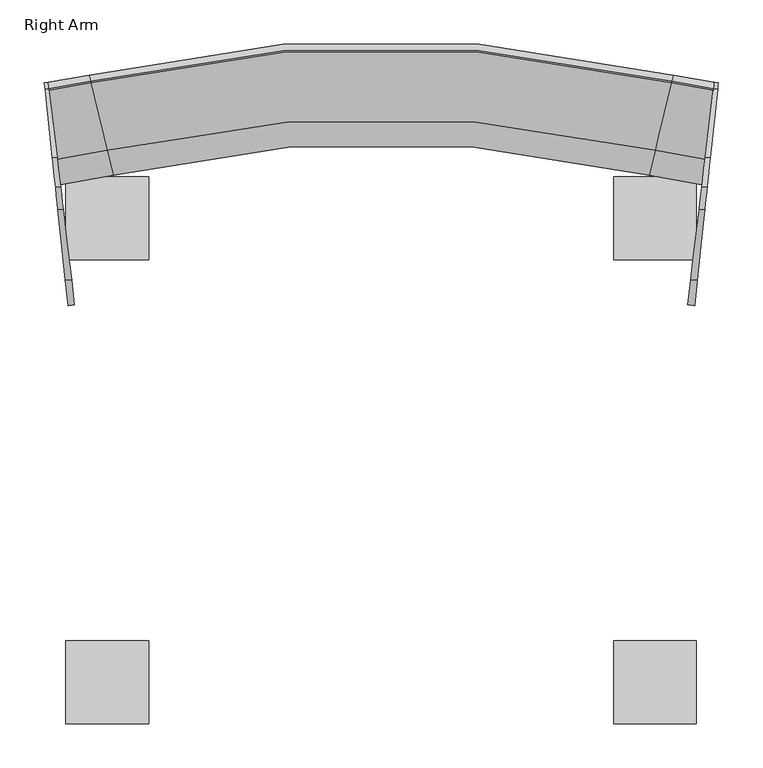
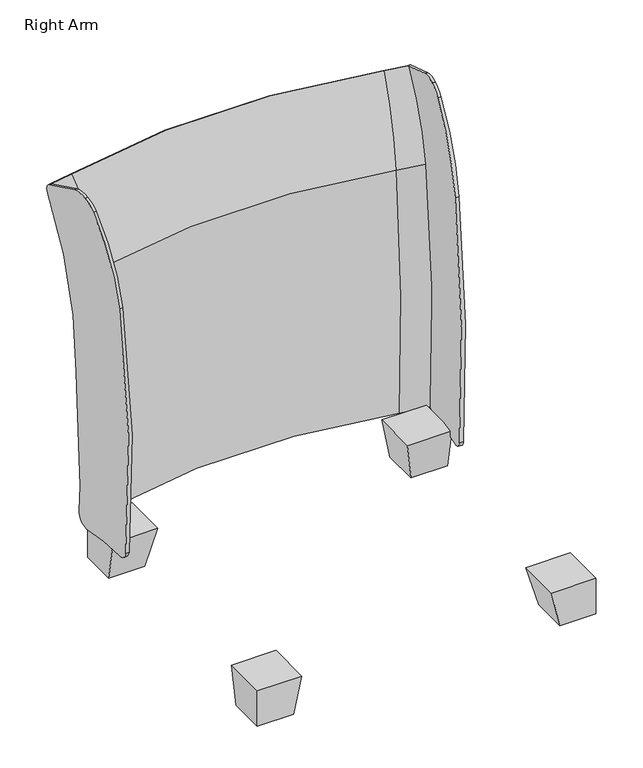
"""IFC4 building model written with IfcOpenShell, lengths in millimetres: furniture geometry, Steelcase Turnstone - Jenny - Seating - Lounge Chair : Right Arm."""

from ifc_helpers import new_model, si_unit, point, frame, frame_2d, origin, origin_with_axes, place, context, project, spatial, polyline, circle_curve, ellipse_curve, trimmed, segment, composite_curve, outline, extrude, faceted_brep, source, transform, mapped, element, save
from ifc_brep_helpers import plane_surface, revolved_surface, advanced_brep


def right_arm_36111af0(model_context):
    return source(origin(), model_context, "Body", "SolidModel", [
        extrude(outline(composite_curve([segment(trimmed(circle_curve(frame_2d((-271.7495755, 631.5743694)), 14.4058816), [point((-271.7495755, 645.9802509))], [point((-271.7495755, 617.1684878))], False, "CARTESIAN"), True, "CONTINUOUS"), segment(trimmed(circle_curve(frame_2d((-271.7495755, 631.5743694)), 14.4058816), [point((-271.7495755, 617.1684878))], [point((-271.7495755, 645.9802509))], False, "CARTESIAN"), True, "CONTINUOUS")], self_intersect=False)), origin_with_axes(), (0.0, 0.0, 1.0), 7.083069),
        extrude(outline(composite_curve([segment(trimmed(circle_curve(frame_2d((364.0680103, 631.2568742)), 14.4535487), [point((364.0680103, 645.7104229))], [point((364.0680103, 616.8033255))], False, "CARTESIAN"), True, "CONTINUOUS"), segment(trimmed(circle_curve(frame_2d((364.0680103, 631.2568742)), 14.4535487), [point((364.0680103, 616.8033255))], [point((364.0680103, 645.7104229))], False, "CARTESIAN"), True, "CONTINUOUS")], self_intersect=False)), origin_with_axes(), (0.0, 0.0, 1.0), 7.083069),
        faceted_brep([(324.8977267, 593.0641473, 7.083069), (324.8977267, 669.2641473, 7.083069), (401.0977267, 669.2641473, 7.083069), (401.0977267, 593.0641473, 7.083069), (307.6761035, 575.8429601, 95.4116322), (401.0977267, 575.8429601, 95.4116322), (401.0977267, 669.2641473, 95.4116322), (307.6761035, 669.2641473, 95.4116322)], [[[0, 1, 2, 3]], [[4, 5, 6, 7]], [[4, 7, 1, 0]], [[7, 6, 2, 1]], [[6, 5, 3, 2]], [[5, 4, 0, 3]]]),
        faceted_brep([(-233.4577267, 593.0641473, 7.083069), (-309.6577267, 593.0641473, 7.083069), (-309.6577267, 669.2641473, 7.083069), (-233.4577267, 669.2641473, 7.083069), (-216.2361035, 575.8429601, 95.4116322), (-216.2361035, 669.2641473, 95.4116322), (-309.6577267, 669.2641473, 95.4116322), (-309.6577267, 575.8429601, 95.4116322)], [[[0, 1, 2, 3]], [[4, 5, 6, 7]], [[4, 7, 1, 0]], [[7, 6, 2, 1]], [[6, 5, 3, 2]], [[5, 4, 0, 3]]]),
        extrude(outline(composite_curve([segment(trimmed(circle_curve(frame_2d((-271.7495755, 90.6150358)), 14.4058816), [point((-271.7495755, 76.2091543))], [point((-271.7495755, 105.0209174))], False, "CARTESIAN"), True, "CONTINUOUS"), segment(trimmed(circle_curve(frame_2d((-271.7495755, 90.6150358)), 14.4058816), [point((-271.7495755, 105.0209174))], [point((-271.7495755, 76.2091543))], False, "CARTESIAN"), True, "CONTINUOUS")], self_intersect=False)), origin_with_axes(), (0.0, 0.0, 1.0), 7.083069),
        extrude(outline(composite_curve([segment(trimmed(circle_curve(frame_2d((364.0680103, 90.932531)), 14.4535487), [point((364.0680103, 76.4789822))], [point((364.0680103, 105.3860797))], False, "CARTESIAN"), True, "CONTINUOUS"), segment(trimmed(circle_curve(frame_2d((364.0680103, 90.932531)), 14.4535487), [point((364.0680103, 105.3860797))], [point((364.0680103, 76.4789822))], False, "CARTESIAN"), True, "CONTINUOUS")], self_intersect=False)), origin_with_axes(), (0.0, 0.0, 1.0), 7.083069),
        faceted_brep([(324.8977267, 129.1252579, 7.083069), (401.0977267, 129.1252579, 7.083069), (401.0977267, 52.9252579, 7.083069), (324.8977267, 52.9252579, 7.083069), (307.6761035, 146.3464451, 85.2737648), (307.6761035, 52.9252579, 85.2737648), (401.0977267, 52.9252579, 85.2737648), (401.0977267, 146.3464451, 85.2737648)], [[[0, 1, 2, 3]], [[4, 5, 6, 7]], [[4, 7, 1, 0]], [[7, 6, 2, 1]], [[6, 5, 3, 2]], [[5, 4, 0, 3]]]),
        faceted_brep([(-233.4577267, 129.1252579, 7.083069), (-233.4577267, 52.9252579, 7.083069), (-309.6577267, 52.9252579, 7.083069), (-309.6577267, 129.1252579, 7.083069), (-216.2361035, 146.3464451, 85.2737648), (-309.6577267, 146.3464451, 85.2737648), (-309.6577267, 52.9252579, 85.2737648), (-216.2361035, 52.9252579, 85.2737648)], [[[0, 1, 2, 3]], [[4, 5, 6, 7]], [[4, 7, 1, 0]], [[7, 6, 2, 1]], [[6, 5, 3, 2]], [[5, 4, 0, 3]]]),
        advanced_brep(
        [(-319.3128558, 688.9118721, 614.3798536), (-328.4886501, 766.5758751, 782.0850534), (-328.7377532, 768.6842856, 781.0193185), (-329.3646857, 773.9906478, 763.3929272), (-319.0040839, 686.2984239, 412.1857232), (-317.8644919, 676.6529077, 226.5942002), (-317.829176, 676.3539931, 111.3923483), (-316.9201057, 668.6596146, 90.0869227), (-281.3474538, 775.0009474, 782.0850534), (-263.054252, 698.9664071, 614.3798536), (-281.8440748, 777.0651215, 781.0193185), (-283.0939506, 782.2601513, 763.3929272), (-262.4386729, 696.4077914, 412.1857232), (-260.1667403, 686.964647, 226.5942002), (-260.0963331, 686.6720039, 111.3923483), (-258.2839772, 679.1390607, 90.0869227), (372.7874538, 775.0009474, 782.0850534), (354.494252, 698.9664071, 614.3798536), (373.2840748, 777.0651215, 781.0193185), (374.5339506, 782.2601513, 763.3929272), (353.8786729, 696.4077914, 412.1857232), (351.6067403, 686.964647, 226.5942002), (351.5363331, 686.6720039, 111.3923483), (349.7239772, 679.1390607, 90.0869227), (410.7528558, 688.9118721, 614.3798536), (408.3601057, 668.6596146, 90.0869227), (409.269176, 676.3539931, 111.3923483), (409.3044919, 676.6529077, 226.5942002), (410.4440839, 686.2984239, 412.1857232), (420.8046857, 773.9906478, 763.3929272), (420.1777532, 768.6842856, 781.0193185), (419.9286501, 766.5758751, 782.0850534)],
        [
            (0, 1, circle_curve(frame((-361.2620142, 1043.9699138, 549.7445151), z_axis=(-0.9930928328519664, -0.11733126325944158, 0.0), x_axis=(-0.11733126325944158, 0.9930928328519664, 0.0)), 363.3230957)),
            (1, 2),
            (2, 3, circle_curve(frame((-328.0692515, 763.0260816, 769.6690835), z_axis=(-0.9930928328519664, -0.11733126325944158, 0.0), x_axis=(-0.11733126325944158, 0.9930928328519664, 0.0)), 12.7)),
            (3, 4, circle_curve(frame((-398.4640732, 1358.8484643, 428.618251), z_axis=(0.9930928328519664, 0.11733126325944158, 0.0), x_axis=(-0.11733126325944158, 0.9930928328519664, 0.0)), 677.4270991)),
            (4, 5, circle_curve(frame((-176.4714301, -520.0991972, 382.7096079), z_axis=(-0.9930928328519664, -0.11733126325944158, 0.0), x_axis=(-0.11733126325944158, 0.9930928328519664, 0.0)), 1215.145925)),
            (5, 6, circle_curve(frame((-371.1075775, 1127.3028473, 167.8072561), z_axis=(0.9930928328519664, 0.11733126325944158, 0.0), x_axis=(-0.11733126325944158, 0.9930928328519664, 0.0)), 457.5763313)),
            (6, 7, circle_curve(frame((-314.9285798, 651.8033223, 108.3209937), z_axis=(-0.9930928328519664, -0.11733126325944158, 0.0), x_axis=(-0.11733126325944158, 0.9930928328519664, 0.0)), 24.9114856)),
            (7, 0, circle_curve(frame((-536.4175659, 2526.4880272, 279.8645269), z_axis=(-0.9930928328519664, -0.11733126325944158, 0.0), x_axis=(-0.11733126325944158, 0.9930928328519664, 0.0)), 1880.3513194)),
            (8, 1, circle_curve(frame((-375.9317332, 1168.1345426, 782.0850534), z_axis=(0.0, 0.0, -1.0), x_axis=(0.1173312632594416, -0.9930928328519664, 0.0)), 404.3515915)),
            (0, 9, circle_curve(frame((-375.9317332, 1168.1345426, 614.3798536), z_axis=(0.0, 0.0, 1.0), x_axis=(0.1173312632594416, -0.9930928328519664, 0.0)), 482.5557637)),
            (9, 8, circle_curve(frame((-346.6856407, 1046.5750026, 549.7445151), z_axis=(-0.9722568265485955, -0.23391593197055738, 0.0), x_axis=(-0.23391593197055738, 0.9722568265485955, 0.0)), 363.3230957)),
            (10, 2, circle_curve(frame((-375.9317332, 1168.1345426, 781.0193185), z_axis=(0.0, 0.0, -1.0), x_axis=(0.1173312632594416, -0.9930928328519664, 0.0)), 402.2285166)),
            (8, 10),
            (11, 3, circle_curve(frame((-375.9317332, 1168.1345426, 763.3929272), z_axis=(0.0, 0.0, -1.0), x_axis=(0.1173312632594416, -0.9930928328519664, 0.0)), 396.8852475)),
            (10, 11, circle_curve(frame((-280.5113253, 771.5256318, 769.6690835), z_axis=(-0.9722568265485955, -0.23391593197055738, 0.0), x_axis=(-0.23391593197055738, 0.9722568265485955, 0.0)), 12.7)),
            (12, 4, circle_curve(frame((-375.9317332, 1168.1345426, 412.1857232), z_axis=(0.0, 0.0, -1.0), x_axis=(0.1173312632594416, -0.9930928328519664, 0.0)), 485.187389)),
            (11, 12, circle_curve(frame((-420.8530368, 1354.8471098, 428.618251), z_axis=(0.9722568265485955, 0.23391593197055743, 0.0), x_axis=(-0.23391593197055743, 0.9722568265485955, 0.0)), 677.4270991)),
            (13, 5, circle_curve(frame((-375.9317332, 1168.1345426, 226.5942002), z_axis=(0.0, 0.0, -1.0), x_axis=(0.1173312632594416, -0.9930928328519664, 0.0)), 494.8999918)),
            (12, 13, circle_curve(frame((21.7196802, -484.6784917, 382.7096079), z_axis=(-0.9722568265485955, -0.23391593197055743, 0.0), x_axis=(-0.23391593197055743, 0.9722568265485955, 0.0)), 1215.145925)),
            (14, 6, circle_curve(frame((-375.9317332, 1168.1345426, 111.3923483), z_axis=(0.0, 0.0, -1.0), x_axis=(0.1173312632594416, -0.9930928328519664, 0.0)), 495.2009855)),
            (13, 14, circle_curve(frame((-366.3141186, 1128.159534, 167.8072561), z_axis=(0.9722568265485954, 0.2339159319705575, 0.0), x_axis=(-0.2339159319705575, 0.9722568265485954, 0.0)), 457.5763313)),
            (15, 7, circle_curve(frame((-375.9317332, 1168.1345426, 90.0869227), z_axis=(0.0, 0.0, -1.0), x_axis=(0.1173312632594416, -0.9930928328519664, 0.0)), 502.9488799)),
            (14, 15, circle_curve(frame((-254.3135978, 662.6364289, 108.3209937), z_axis=(-0.9722568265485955, -0.23391593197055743, 0.0), x_axis=(-0.23391593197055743, 0.9722568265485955, 0.0)), 24.9114856)),
            (15, 9, circle_curve(frame((-695.8822058, 2497.9885145, 279.8645269), z_axis=(-0.9722568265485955, -0.2339159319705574, 0.0), x_axis=(-0.2339159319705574, 0.9722568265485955, 0.0)), 1880.3513194)),
            (16, 8, circle_curve(frame((45.72, -584.4343079, 782.0850534), z_axis=(0.0, 0.0, 1.0), x_axis=(-0.23391593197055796, 0.9722568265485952, 0.0)), 1398.2264955)),
            (9, 17, circle_curve(frame((45.72, -584.4343079, 614.3798536), z_axis=(0.0, 0.0, -1.0), x_axis=(-0.23391593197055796, 0.9722568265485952, 0.0)), 1320.0223232)),
            (17, 16, circle_curve(frame((438.1256407, 1046.5750026, 549.7445151), z_axis=(-0.972256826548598, 0.23391593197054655, 0.0), x_axis=(0.23391593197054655, 0.972256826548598, 0.0)), 363.3230957)),
            (18, 10, circle_curve(frame((45.72, -584.4343079, 781.0193185), z_axis=(0.0, 0.0, 1.0), x_axis=(-0.23391593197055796, 0.9722568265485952, 0.0)), 1400.3495704)),
            (16, 18),
            (19, 11, circle_curve(frame((45.72, -584.4343079, 763.3929272), z_axis=(0.0, 0.0, 1.0), x_axis=(-0.23391593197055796, 0.9722568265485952, 0.0)), 1405.6928394)),
            (18, 19, circle_curve(frame((371.9513253, 771.5256318, 769.6690835), z_axis=(-0.9722568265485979, 0.233915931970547, 0.0), x_axis=(0.233915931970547, 0.9722568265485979, 0.0)), 12.7)),
            (20, 12, circle_curve(frame((45.72, -584.4343079, 412.1857232), z_axis=(0.0, 0.0, 1.0), x_axis=(-0.23391593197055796, 0.9722568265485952, 0.0)), 1317.3906979)),
            (19, 20, circle_curve(frame((512.2930368, 1354.8471098, 428.618251), z_axis=(0.9722568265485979, -0.23391593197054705, 0.0), x_axis=(0.23391593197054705, 0.9722568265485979, 0.0)), 677.4270991)),
            (21, 13, circle_curve(frame((45.72, -584.4343079, 226.5942002), z_axis=(0.0, 0.0, 1.0), x_axis=(-0.23391593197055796, 0.9722568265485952, 0.0)), 1307.6780951)),
            (20, 21, circle_curve(frame((69.7203198, -484.6784917, 382.7096079), z_axis=(-0.972256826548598, 0.2339159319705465, 0.0), x_axis=(0.2339159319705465, 0.972256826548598, 0.0)), 1215.145925)),
            (22, 14, circle_curve(frame((45.72, -584.4343079, 111.3923483), z_axis=(0.0, 0.0, 1.0), x_axis=(-0.23391593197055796, 0.9722568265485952, 0.0)), 1307.3771015)),
            (21, 22, circle_curve(frame((457.7541186, 1128.159534, 167.8072561), z_axis=(0.972256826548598, -0.2339159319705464, 0.0), x_axis=(0.2339159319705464, 0.972256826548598, 0.0)), 457.5763313)),
            (23, 15, circle_curve(frame((45.72, -584.4343079, 90.0869227), z_axis=(0.0, 0.0, 1.0), x_axis=(-0.23391593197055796, 0.9722568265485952, 0.0)), 1299.629207)),
            (22, 23, circle_curve(frame((345.7535978, 662.6364289, 108.3209937), z_axis=(-0.972256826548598, 0.23391593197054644, 0.0), x_axis=(0.23391593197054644, 0.972256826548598, 0.0)), 24.9114856)),
            (23, 17, circle_curve(frame((787.3222058, 2497.9885145, 279.8645269), z_axis=(-0.9722568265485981, 0.23391593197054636, 0.0), x_axis=(0.23391593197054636, 0.9722568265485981, 0.0)), 1880.3513194)),
            (24, 25, circle_curve(frame((627.8575659, 2526.4880272, 279.8645269), z_axis=(0.9930928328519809, -0.11733126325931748, 0.0), x_axis=(0.11733126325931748, 0.9930928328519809, 0.0)), 1880.3513194)),
            (25, 26, circle_curve(frame((406.3685798, 651.8033223, 108.3209937), z_axis=(0.9930928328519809, -0.11733126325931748, 0.0), x_axis=(0.11733126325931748, 0.9930928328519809, 0.0)), 24.9114856)),
            (26, 27, circle_curve(frame((462.5475775, 1127.3028473, 167.8072561), z_axis=(-0.9930928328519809, 0.11733126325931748, 0.0), x_axis=(0.11733126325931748, 0.9930928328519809, 0.0)), 457.5763313)),
            (27, 28, circle_curve(frame((267.9114301, -520.0991972, 382.7096079), z_axis=(0.9930928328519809, -0.11733126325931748, 0.0), x_axis=(0.11733126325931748, 0.9930928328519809, 0.0)), 1215.145925)),
            (28, 29, circle_curve(frame((489.9040732, 1358.8484643, 428.618251), z_axis=(-0.9930928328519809, 0.11733126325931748, 0.0), x_axis=(0.11733126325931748, 0.9930928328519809, 0.0)), 677.4270991)),
            (29, 30, circle_curve(frame((419.5092515, 763.0260816, 769.6690835), z_axis=(0.9930928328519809, -0.11733126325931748, 0.0), x_axis=(0.11733126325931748, 0.9930928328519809, 0.0)), 12.7)),
            (30, 31),
            (31, 24, circle_curve(frame((452.7020142, 1043.9699138, 549.7445151), z_axis=(0.9930928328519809, -0.11733126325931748, 0.0), x_axis=(0.11733126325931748, 0.9930928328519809, 0.0)), 363.3230957)),
            (31, 16, circle_curve(frame((467.3717332, 1168.1345426, 782.0850534), z_axis=(0.0, 0.0, -1.0), x_axis=(-0.2339159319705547, -0.972256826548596, 0.0)), 404.3515915)),
            (17, 24, circle_curve(frame((467.3717332, 1168.1345426, 614.3798536), z_axis=(0.0, 0.0, 1.0), x_axis=(-0.2339159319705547, -0.972256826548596, 0.0)), 482.5557637)),
            (30, 18, circle_curve(frame((467.3717332, 1168.1345426, 781.0193185), z_axis=(0.0, 0.0, -1.0), x_axis=(-0.2339159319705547, -0.972256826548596, 0.0)), 402.2285166)),
            (29, 19, circle_curve(frame((467.3717332, 1168.1345426, 763.3929272), z_axis=(0.0, 0.0, -1.0), x_axis=(-0.2339159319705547, -0.972256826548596, 0.0)), 396.8852475)),
            (28, 20, circle_curve(frame((467.3717332, 1168.1345426, 412.1857232), z_axis=(0.0, 0.0, -1.0), x_axis=(-0.2339159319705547, -0.972256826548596, 0.0)), 485.187389)),
            (27, 21, circle_curve(frame((467.3717332, 1168.1345426, 226.5942002), z_axis=(0.0, 0.0, -1.0), x_axis=(-0.2339159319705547, -0.972256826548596, 0.0)), 494.8999918)),
            (26, 22, circle_curve(frame((467.3717332, 1168.1345426, 111.3923483), z_axis=(0.0, 0.0, -1.0), x_axis=(-0.2339159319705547, -0.972256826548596, 0.0)), 495.2009855)),
            (25, 23, circle_curve(frame((467.3717332, 1168.1345426, 90.0869227), z_axis=(0.0, 0.0, -1.0), x_axis=(-0.2339159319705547, -0.972256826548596, 0.0)), 502.9488799)),
        ],
        [
            plane_surface(frame((-309.88, 609.0720985, 0.0), z_axis=(-0.9930928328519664, -0.1173312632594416, 0.0), x_axis=(0.0, 0.0, 1.0))),
            revolved_surface(trimmed(ellipse_curve(frame((-361.2620142, 1043.9699138, 549.7445151), z_axis=(-0.9930928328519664, -0.11733126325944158, 0.0), x_axis=(-0.11733126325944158, 0.9930928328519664, 0.0)), 363.3230957, 363.3230957), [point((-319.3128558, 688.9118721, 614.3798536))], [point((-328.4886501, 766.5758751, 782.0850534))], True, "CARTESIAN"), (-375.9317332, 1168.1345426, 0.0), (0.0, 0.0, 1.0)),
            revolved_surface(polyline([(-328.4886501, 766.5758751, 782.0850534), (-328.7377532, 768.6842856, 781.0193185)]), (-375.9317332, 1168.1345426, 0.0), (0.0, 0.0, 1.0)),
            revolved_surface(trimmed(ellipse_curve(frame((-328.0692515, 763.0260816, 769.6690835), z_axis=(-0.9930928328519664, -0.11733126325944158, 0.0), x_axis=(-0.11733126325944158, 0.9930928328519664, 0.0)), 12.7, 12.7), [point((-328.7377532, 768.6842856, 781.0193185))], [point((-329.3646857, 773.9906478, 763.3929272))], True, "CARTESIAN"), (-375.9317332, 1168.1345426, 0.0), (0.0, 0.0, 1.0)),
            revolved_surface(trimmed(ellipse_curve(frame((-398.4640732, 1358.8484643, 428.618251), z_axis=(0.9930928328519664, 0.11733126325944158, 0.0), x_axis=(-0.11733126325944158, 0.9930928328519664, 0.0)), 677.4270991, 677.4270991), [point((-329.3646857, 773.9906478, 763.3929272))], [point((-319.0040839, 686.2984239, 412.1857232))], True, "CARTESIAN"), (-375.9317332, 1168.1345426, 0.0), (0.0, 0.0, 1.0)),
            revolved_surface(trimmed(ellipse_curve(frame((-176.4714301, -520.0991972, 382.7096079), z_axis=(-0.9930928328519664, -0.11733126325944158, 0.0), x_axis=(-0.11733126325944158, 0.9930928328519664, 0.0)), 1215.145925, 1215.145925), [point((-319.0040839, 686.2984239, 412.1857232))], [point((-317.8644919, 676.6529077, 226.5942002))], True, "CARTESIAN"), (-375.9317332, 1168.1345426, 0.0), (0.0, 0.0, 1.0)),
            revolved_surface(trimmed(ellipse_curve(frame((-371.1075775, 1127.3028473, 167.8072561), z_axis=(0.9930928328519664, 0.11733126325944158, 0.0), x_axis=(-0.11733126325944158, 0.9930928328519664, 0.0)), 457.5763313, 457.5763313), [point((-317.8644919, 676.6529077, 226.5942002))], [point((-317.829176, 676.3539931, 111.3923483))], True, "CARTESIAN"), (-375.9317332, 1168.1345426, 0.0), (0.0, 0.0, 1.0)),
            revolved_surface(trimmed(ellipse_curve(frame((-314.9285798, 651.8033223, 108.3209937), z_axis=(-0.9930928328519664, -0.11733126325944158, 0.0), x_axis=(-0.11733126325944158, 0.9930928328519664, 0.0)), 24.9114856, 24.9114856), [point((-317.829176, 676.3539931, 111.3923483))], [point((-316.9201057, 668.6596146, 90.0869227))], True, "CARTESIAN"), (-375.9317332, 1168.1345426, 0.0), (0.0, 0.0, 1.0)),
            revolved_surface(trimmed(ellipse_curve(frame((-536.4175659, 2526.4880272, 279.8645269), z_axis=(-0.9930928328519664, -0.11733126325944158, 0.0), x_axis=(-0.11733126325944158, 0.9930928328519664, 0.0)), 1880.3513194, 1880.3513194), [point((-316.9201057, 668.6596146, 90.0869227))], [point((-319.3128558, 688.9118721, 614.3798536))], True, "CARTESIAN"), (-375.9317332, 1168.1345426, 0.0), (0.0, 0.0, 1.0)),
            revolved_surface(trimmed(ellipse_curve(frame((-346.6856407, 1046.5750026, 549.7445151), z_axis=(-0.9722568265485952, -0.23391593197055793, 0.0), x_axis=(-0.23391593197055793, 0.9722568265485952, 0.0)), 363.3230957, 363.3230957), [point((-263.054252, 698.9664071, 614.3798536))], [point((-281.3474538, 775.0009474, 782.0850534))], True, "CARTESIAN"), (45.72, -584.4343079, 0.0), (0.0, 0.0, -1.0)),
            revolved_surface(polyline([(-281.3474538, 775.0009474, 782.0850534), (-281.8440748, 777.0651215, 781.0193185)]), (45.72, -584.4343079, 0.0), (0.0, 0.0, -1.0)),
            revolved_surface(trimmed(ellipse_curve(frame((-280.5113253, 771.5256318, 769.6690835), z_axis=(-0.9722568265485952, -0.23391593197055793, 0.0), x_axis=(-0.23391593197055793, 0.9722568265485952, 0.0)), 12.7, 12.7), [point((-281.8440748, 777.0651215, 781.0193185))], [point((-283.0939506, 782.2601513, 763.3929272))], True, "CARTESIAN"), (45.72, -584.4343079, 0.0), (0.0, 0.0, -1.0)),
            revolved_surface(trimmed(ellipse_curve(frame((-420.8530368, 1354.8471098, 428.618251), z_axis=(0.9722568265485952, 0.23391593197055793, 0.0), x_axis=(-0.23391593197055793, 0.9722568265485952, 0.0)), 677.4270991, 677.4270991), [point((-283.0939506, 782.2601513, 763.3929272))], [point((-262.4386729, 696.4077914, 412.1857232))], True, "CARTESIAN"), (45.72, -584.4343079, 0.0), (0.0, 0.0, -1.0)),
            revolved_surface(trimmed(ellipse_curve(frame((21.7196802, -484.6784917, 382.7096079), z_axis=(-0.9722568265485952, -0.23391593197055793, 0.0), x_axis=(-0.23391593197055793, 0.9722568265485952, 0.0)), 1215.145925, 1215.145925), [point((-262.4386729, 696.4077914, 412.1857232))], [point((-260.1667403, 686.964647, 226.5942002))], True, "CARTESIAN"), (45.72, -584.4343079, 0.0), (0.0, 0.0, -1.0)),
            revolved_surface(trimmed(ellipse_curve(frame((-366.3141186, 1128.159534, 167.8072561), z_axis=(0.9722568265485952, 0.23391593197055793, 0.0), x_axis=(-0.23391593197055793, 0.9722568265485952, 0.0)), 457.5763313, 457.5763313), [point((-260.1667403, 686.964647, 226.5942002))], [point((-260.0963331, 686.6720039, 111.3923483))], True, "CARTESIAN"), (45.72, -584.4343079, 0.0), (0.0, 0.0, -1.0)),
            revolved_surface(trimmed(ellipse_curve(frame((-254.3135978, 662.6364289, 108.3209937), z_axis=(-0.9722568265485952, -0.23391593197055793, 0.0), x_axis=(-0.23391593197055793, 0.9722568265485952, 0.0)), 24.9114856, 24.9114856), [point((-260.0963331, 686.6720039, 111.3923483))], [point((-258.2839772, 679.1390607, 90.0869227))], True, "CARTESIAN"), (45.72, -584.4343079, 0.0), (0.0, 0.0, -1.0)),
            revolved_surface(trimmed(ellipse_curve(frame((-695.8822058, 2497.9885145, 279.8645269), z_axis=(-0.9722568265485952, -0.23391593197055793, 0.0), x_axis=(-0.23391593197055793, 0.9722568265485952, 0.0)), 1880.3513194, 1880.3513194), [point((-258.2839772, 679.1390607, 90.0869227))], [point((-263.054252, 698.9664071, 614.3798536))], True, "CARTESIAN"), (45.72, -584.4343079, 0.0), (0.0, 0.0, -1.0)),
            plane_surface(frame((401.32, 609.0720985, 0.0), z_axis=(0.993092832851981, -0.11733126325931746, 0.0), x_axis=(0.0, 0.0, 1.0))),
            revolved_surface(trimmed(ellipse_curve(frame((438.1256407, 1046.5750026, 549.7445151), z_axis=(-0.972256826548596, 0.2339159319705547, 0.0), x_axis=(0.2339159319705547, 0.972256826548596, 0.0)), 363.3230957, 363.3230957), [point((354.494252, 698.9664071, 614.3798536))], [point((372.7874538, 775.0009474, 782.0850534))], True, "CARTESIAN"), (467.3717332, 1168.1345426, 0.0), (0.0, 0.0, 1.0)),
            revolved_surface(polyline([(372.7874538, 775.0009474, 782.0850534), (373.2840748, 777.0651215, 781.0193185)]), (467.3717332, 1168.1345426, 0.0), (0.0, 0.0, 1.0)),
            revolved_surface(trimmed(ellipse_curve(frame((371.9513253, 771.5256318, 769.6690835), z_axis=(-0.972256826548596, 0.2339159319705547, 0.0), x_axis=(0.2339159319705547, 0.972256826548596, 0.0)), 12.7, 12.7), [point((373.2840748, 777.0651215, 781.0193185))], [point((374.5339506, 782.2601513, 763.3929272))], True, "CARTESIAN"), (467.3717332, 1168.1345426, 0.0), (0.0, 0.0, 1.0)),
            revolved_surface(trimmed(ellipse_curve(frame((512.2930368, 1354.8471098, 428.618251), z_axis=(0.972256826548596, -0.2339159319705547, 0.0), x_axis=(0.2339159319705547, 0.972256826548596, 0.0)), 677.4270991, 677.4270991), [point((374.5339506, 782.2601513, 763.3929272))], [point((353.8786729, 696.4077914, 412.1857232))], True, "CARTESIAN"), (467.3717332, 1168.1345426, 0.0), (0.0, 0.0, 1.0)),
            revolved_surface(trimmed(ellipse_curve(frame((69.7203198, -484.6784917, 382.7096079), z_axis=(-0.972256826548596, 0.2339159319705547, 0.0), x_axis=(0.2339159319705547, 0.972256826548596, 0.0)), 1215.145925, 1215.145925), [point((353.8786729, 696.4077914, 412.1857232))], [point((351.6067403, 686.964647, 226.5942002))], True, "CARTESIAN"), (467.3717332, 1168.1345426, 0.0), (0.0, 0.0, 1.0)),
            revolved_surface(trimmed(ellipse_curve(frame((457.7541186, 1128.159534, 167.8072561), z_axis=(0.972256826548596, -0.2339159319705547, 0.0), x_axis=(0.2339159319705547, 0.972256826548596, 0.0)), 457.5763313, 457.5763313), [point((351.6067403, 686.964647, 226.5942002))], [point((351.5363331, 686.6720039, 111.3923483))], True, "CARTESIAN"), (467.3717332, 1168.1345426, 0.0), (0.0, 0.0, 1.0)),
            revolved_surface(trimmed(ellipse_curve(frame((345.7535978, 662.6364289, 108.3209937), z_axis=(-0.972256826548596, 0.2339159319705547, 0.0), x_axis=(0.2339159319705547, 0.972256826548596, 0.0)), 24.9114856, 24.9114856), [point((351.5363331, 686.6720039, 111.3923483))], [point((349.7239772, 679.1390607, 90.0869227))], True, "CARTESIAN"), (467.3717332, 1168.1345426, 0.0), (0.0, 0.0, 1.0)),
            revolved_surface(trimmed(ellipse_curve(frame((787.3222058, 2497.9885145, 279.8645269), z_axis=(-0.972256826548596, 0.2339159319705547, 0.0), x_axis=(0.2339159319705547, 0.972256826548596, 0.0)), 1880.3513194, 1880.3513194), [point((349.7239772, 679.1390607, 90.0869227))], [point((354.494252, 698.9664071, 614.3798536))], True, "CARTESIAN"), (467.3717332, 1168.1345426, 0.0), (0.0, 0.0, 1.0)),
        ],
        [
            (0, [[1, 2, 3, 4, 5, 6, 7, 8]]),
            (1, [[9, -1, 10, 11]]),
            (2, [[12, -2, -9, 13]]),
            (3, [[14, -3, -12, 15]]),
            (4, [[16, -4, -14, 17]]),
            (5, [[18, -5, -16, 19]]),
            (6, [[20, -6, -18, 21]]),
            (7, [[22, -7, -20, 23]]),
            (8, [[-10, -8, -22, 24]]),
            (9, [[25, -11, 26, 27]]),
            (10, [[28, -13, -25, 29]]),
            (11, [[30, -15, -28, 31]]),
            (12, [[32, -17, -30, 33]]),
            (13, [[34, -19, -32, 35]]),
            (14, [[36, -21, -34, 37]]),
            (15, [[38, -23, -36, 39]]),
            (16, [[-26, -24, -38, 40]]),
            (17, [[41, 42, 43, 44, 45, 46, 47, 48]]),
            (18, [[49, -27, 50, -48]]),
            (19, [[51, -29, -49, -47]]),
            (20, [[52, -31, -51, -46]]),
            (21, [[53, -33, -52, -45]]),
            (22, [[54, -35, -53, -44]]),
            (23, [[55, -37, -54, -43]]),
            (24, [[56, -39, -55, -42]]),
            (25, [[-50, -40, -56, -41]]),
        ],
    ),
        advanced_brep(
        [(416.7431422, 690.4168678, 813.9027777), (413.2278894, 657.2478941, 814.4538477), (410.5581433, 632.056893, 797.7221008), (402.1268462, 552.5014564, 627.8736036), (400.0484196, 532.8899867, 97.0710008), (402.1149504, 552.3892108, 81.9987921), (412.2567036, 648.0840483, 83.5957513), (415.1825291, 675.6913448, 111.3923483), (415.2142508, 675.9906622, 226.5942002), (416.2378614, 685.6491753, 412.1857232), (425.5440192, 773.4595598, 763.3929272), (424.9808923, 768.1460475, 781.0193185), (411.006616, 691.0597009, 813.9027777), (420.1777532, 768.6842856, 781.0193185), (420.8046857, 773.9906478, 763.3929272), (410.4440839, 686.2984239, 412.1857232), (409.3044919, 676.6529077, 226.5942002), (409.269176, 676.3539931, 111.3923483), (406.0118368, 648.7838459, 83.5957513), (394.7209614, 553.2177786, 81.9987921), (392.4202803, 533.7447933, 97.0710008), (394.7342051, 553.3298731, 627.8736036), (404.1208193, 632.7782572, 797.7221008), (407.0930638, 657.9353605, 814.4538477)],
        [
            (0, 1, circle_curve(frame((414.8963053, 672.9906155, 762.9432742), z_axis=(0.9944309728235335, -0.10538994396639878, 0.0), x_axis=(-0.10538994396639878, -0.9944309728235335, 0.0)), 53.8883667)),
            (1, 2, circle_curve(frame((414.8963053, 672.9906155, 762.9432742), z_axis=(0.9944309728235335, -0.10538994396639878, 0.0), x_axis=(-0.10538994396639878, -0.9944309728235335, 0.0)), 53.8883667)),
            (2, 3, circle_curve(frame((439.806654, 908.03792, 563.2382651), z_axis=(0.9944309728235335, -0.10538994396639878, 0.0), x_axis=(-0.10538994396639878, -0.9944309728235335, 0.0)), 363.3230957)),
            (3, 4, circle_curve(frame((597.135854, 2392.5536479, 293.3582769), z_axis=(0.9944309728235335, -0.10538994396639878, 0.0), x_axis=(-0.10538994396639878, -0.9944309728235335, 0.0)), 1880.3513194)),
            (4, 5, circle_curve(frame((401.8364347, 549.7612128, 98.8517567), z_axis=(0.9944309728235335, -0.10538994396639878, 0.0), x_axis=(-0.10538994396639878, -0.9944309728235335, 0.0)), 17.0589085)),
            (5, 6, circle_curve(frame((407.7875508, 605.9143321, -261.2499371), z_axis=(-0.9944309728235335, 0.10538994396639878, 0.0), x_axis=(-0.10538994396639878, -0.9944309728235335, 0.0)), 347.443243)),
            (6, 7, circle_curve(frame((412.5771394, 651.1075933, 108.3209937), z_axis=(0.9944309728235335, -0.10538994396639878, 0.0), x_axis=(-0.10538994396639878, -0.9944309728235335, 0.0)), 24.9114856)),
            (7, 8, circle_curve(frame((463.0385531, 1127.2478287, 167.8072561), z_axis=(-0.9944309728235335, 0.10538994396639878, 0.0), x_axis=(-0.10538994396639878, -0.9944309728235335, 0.0)), 457.5763313)),
            (8, 9, circle_curve(frame((288.2113834, -522.3740028, 382.7096079), z_axis=(0.9944309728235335, -0.10538994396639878, 0.0), x_axis=(-0.10538994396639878, -0.9944309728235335, 0.0)), 1215.145925)),
            (9, 10, circle_curve(frame((487.6108577, 1359.1054412, 428.618251), z_axis=(-0.9944309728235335, 0.10538994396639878, 0.0), x_axis=(-0.10538994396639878, -0.9944309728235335, 0.0)), 677.4270991)),
            (10, 11, circle_curve(frame((424.380427, 762.4802194, 769.6690835), z_axis=(0.9944309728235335, -0.10538994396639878, 0.0), x_axis=(-0.10538994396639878, -0.9944309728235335, 0.0)), 12.7)),
            (11, 0, circle_curve(frame((395.0415569, 485.6465852, 215.0940543), z_axis=(0.9944309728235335, -0.10538994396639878, 0.0), x_axis=(-0.10538994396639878, -0.9944309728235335, 0.0)), 633.2248531)),
            (12, 13, circle_curve(frame((386.8461096, 486.5649641, 215.0940543), z_axis=(-0.9930928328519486, 0.11733126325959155, 0.0), x_axis=(-0.11733126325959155, -0.9930928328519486, 0.0)), 633.2248531)),
            (13, 14, circle_curve(frame((419.5092515, 763.0260816, 769.6690835), z_axis=(-0.9930928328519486, 0.11733126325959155, 0.0), x_axis=(-0.11733126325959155, -0.9930928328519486, 0.0)), 12.7)),
            (14, 15, circle_curve(frame((489.9040732, 1358.8484643, 428.618251), z_axis=(0.9930928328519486, -0.11733126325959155, 0.0), x_axis=(-0.11733126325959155, -0.9930928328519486, 0.0)), 677.4270991)),
            (15, 16, circle_curve(frame((267.9114301, -520.0991972, 382.7096079), z_axis=(-0.9930928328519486, 0.11733126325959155, 0.0), x_axis=(-0.11733126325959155, -0.9930928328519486, 0.0)), 1215.145925)),
            (16, 17, circle_curve(frame((462.5475775, 1127.3028473, 167.8072561), z_axis=(0.9930928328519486, -0.11733126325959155, 0.0), x_axis=(-0.11733126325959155, -0.9930928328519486, 0.0)), 457.5763313)),
            (17, 18, circle_curve(frame((406.3685798, 651.8033223, 108.3209937), z_axis=(-0.9930928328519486, 0.11733126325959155, 0.0), x_axis=(-0.11733126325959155, -0.9930928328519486, 0.0)), 24.9114856)),
            (18, 19, circle_curve(frame((401.0363018, 606.6708747, -261.2499371), z_axis=(0.9930928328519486, -0.11733126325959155, 0.0), x_axis=(-0.11733126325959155, -0.9930928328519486, 0.0)), 347.443243)),
            (19, 20, circle_curve(frame((394.4108883, 550.5933169, 98.8517567), z_axis=(-0.9930928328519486, 0.11733126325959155, 0.0), x_axis=(-0.11733126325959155, -0.9930928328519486, 0.0)), 17.0589085)),
            (20, 21, circle_curve(frame((611.8389152, 2390.9060281, 293.3582769), z_axis=(-0.9930928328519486, 0.11733126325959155, 0.0), x_axis=(-0.11733126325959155, -0.9930928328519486, 0.0)), 1880.3513194)),
            (21, 22, circle_curve(frame((436.6833635, 908.3879148, 563.2382651), z_axis=(-0.9930928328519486, 0.11733126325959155, 0.0), x_axis=(-0.11733126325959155, -0.9930928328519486, 0.0)), 363.3230957)),
            (22, 23, circle_curve(frame((408.9505214, 673.6568979, 762.9432742), z_axis=(-0.9930928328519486, 0.11733126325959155, 0.0), x_axis=(-0.11733126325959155, -0.9930928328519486, 0.0)), 53.8883667)),
            (23, 12, circle_curve(frame((408.9505214, 673.6568979, 762.9432742), z_axis=(-0.9930928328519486, 0.11733126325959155, 0.0), x_axis=(-0.11733126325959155, -0.9930928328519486, 0.0)), 53.8883667)),
            (23, 1, circle_curve(frame((467.3717332, 1168.1345426, 814.4538477), z_axis=(0.0, 0.0, 1.0), x_axis=(-0.10538994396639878, -0.9944309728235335, 0.0)), 513.7477235)),
            (0, 12, circle_curve(frame((467.3717332, 1168.1345426, 813.9027777), z_axis=(0.0, 0.0, -1.0), x_axis=(-0.10538994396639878, -0.9944309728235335, 0.0)), 480.3929964)),
            (22, 2, circle_curve(frame((467.3717332, 1168.1345426, 797.7221008), z_axis=(0.0, 0.0, 1.0), x_axis=(-0.10538994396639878, -0.9944309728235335, 0.0)), 539.0797997)),
            (21, 3, circle_curve(frame((467.3717332, 1168.1345426, 627.8736036), z_axis=(0.0, 0.0, 1.0), x_axis=(-0.10538994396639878, -0.9944309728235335, 0.0)), 619.0807637)),
            (20, 4, circle_curve(frame((467.3717332, 1168.1345426, 97.0710008), z_axis=(0.0, 0.0, 1.0), x_axis=(-0.10538994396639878, -0.9944309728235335, 0.0)), 638.8020619)),
            (19, 5, circle_curve(frame((467.3717332, 1168.1345426, 81.9987921), z_axis=(0.0, 0.0, 1.0), x_axis=(-0.10538994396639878, -0.9944309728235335, 0.0)), 619.193638)),
            (18, 6, circle_curve(frame((467.3717332, 1168.1345426, 83.5957513), z_axis=(0.0, 0.0, 1.0), x_axis=(-0.10538994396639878, -0.9944309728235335, 0.0)), 522.9628888)),
            (17, 7, circle_curve(frame((467.3717332, 1168.1345426, 111.3923483), z_axis=(0.0, 0.0, 1.0), x_axis=(-0.10538994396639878, -0.9944309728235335, 0.0)), 495.2009855)),
            (16, 8, circle_curve(frame((467.3717332, 1168.1345426, 226.5942002), z_axis=(0.0, 0.0, 1.0), x_axis=(-0.10538994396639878, -0.9944309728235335, 0.0)), 494.8999918)),
            (15, 9, circle_curve(frame((467.3717332, 1168.1345426, 412.1857232), z_axis=(0.0, 0.0, 1.0), x_axis=(-0.10538994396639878, -0.9944309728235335, 0.0)), 485.187389)),
            (14, 10, circle_curve(frame((467.3717332, 1168.1345426, 763.3929272), z_axis=(0.0, 0.0, 1.0), x_axis=(-0.10538994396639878, -0.9944309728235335, 0.0)), 396.8852475)),
            (13, 11, circle_curve(frame((467.3717332, 1168.1345426, 781.0193185), z_axis=(0.0, 0.0, 1.0), x_axis=(-0.10538994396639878, -0.9944309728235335, 0.0)), 402.2285166)),
        ],
        [
            plane_surface(frame((408.0423757, 608.3187915, 0.0), z_axis=(0.9944309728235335, -0.10538994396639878, 0.0), x_axis=(0.0, 0.0, 1.0))),
            plane_surface(frame((401.32, 609.0720985, 0.0), z_axis=(-0.9930928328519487, 0.11733126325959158, 0.0), x_axis=(0.0, 0.0, 1.0))),
            revolved_surface(trimmed(ellipse_curve(frame((414.8963053, 672.9906155, 762.9432742), z_axis=(0.9944309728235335, -0.10538994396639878, 0.0), x_axis=(-0.10538994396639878, -0.9944309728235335, 0.0)), 53.8883667, 53.8883667), [point((416.7431422, 690.4168678, 813.9027777))], [point((413.2278894, 657.2478941, 814.4538477))], True, "CARTESIAN"), (467.3717332, 1168.1345426, 0.0), (0.0, 0.0, -1.0)),
            revolved_surface(trimmed(ellipse_curve(frame((414.8963053, 672.9906155, 762.9432742), z_axis=(0.9944309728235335, -0.10538994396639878, 0.0), x_axis=(-0.10538994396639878, -0.9944309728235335, 0.0)), 53.8883667, 53.8883667), [point((413.2278894, 657.2478941, 814.4538477))], [point((410.5581433, 632.056893, 797.7221008))], True, "CARTESIAN"), (467.3717332, 1168.1345426, 0.0), (0.0, 0.0, -1.0)),
            revolved_surface(trimmed(ellipse_curve(frame((439.806654, 908.03792, 563.2382651), z_axis=(0.9944309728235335, -0.10538994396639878, 0.0), x_axis=(-0.10538994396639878, -0.9944309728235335, 0.0)), 363.3230957, 363.3230957), [point((410.5581433, 632.056893, 797.7221008))], [point((402.1268462, 552.5014564, 627.8736036))], True, "CARTESIAN"), (467.3717332, 1168.1345426, 0.0), (0.0, 0.0, -1.0)),
            revolved_surface(trimmed(ellipse_curve(frame((597.135854, 2392.5536479, 293.3582769), z_axis=(0.9944309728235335, -0.10538994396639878, 0.0), x_axis=(-0.10538994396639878, -0.9944309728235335, 0.0)), 1880.3513194, 1880.3513194), [point((402.1268462, 552.5014564, 627.8736036))], [point((400.0484196, 532.8899867, 97.0710008))], True, "CARTESIAN"), (467.3717332, 1168.1345426, 0.0), (0.0, 0.0, -1.0)),
            revolved_surface(trimmed(ellipse_curve(frame((401.8364347, 549.7612128, 98.8517567), z_axis=(0.9944309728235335, -0.10538994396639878, 0.0), x_axis=(-0.10538994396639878, -0.9944309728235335, 0.0)), 17.0589085, 17.0589085), [point((400.0484196, 532.8899867, 97.0710008))], [point((402.1149504, 552.3892108, 81.9987921))], True, "CARTESIAN"), (467.3717332, 1168.1345426, 0.0), (0.0, 0.0, -1.0)),
            revolved_surface(trimmed(ellipse_curve(frame((407.7875508, 605.9143321, -261.2499371), z_axis=(-0.9944309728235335, 0.10538994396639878, 0.0), x_axis=(-0.10538994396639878, -0.9944309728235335, 0.0)), 347.443243, 347.443243), [point((402.1149504, 552.3892108, 81.9987921))], [point((412.2567036, 648.0840483, 83.5957513))], True, "CARTESIAN"), (467.3717332, 1168.1345426, 0.0), (0.0, 0.0, -1.0)),
            revolved_surface(trimmed(ellipse_curve(frame((412.5771394, 651.1075933, 108.3209937), z_axis=(0.9944309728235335, -0.10538994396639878, 0.0), x_axis=(-0.10538994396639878, -0.9944309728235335, 0.0)), 24.9114856, 24.9114856), [point((412.2567036, 648.0840483, 83.5957513))], [point((415.1825291, 675.6913448, 111.3923483))], True, "CARTESIAN"), (467.3717332, 1168.1345426, 0.0), (0.0, 0.0, -1.0)),
            revolved_surface(trimmed(ellipse_curve(frame((463.0385531, 1127.2478287, 167.8072561), z_axis=(-0.9944309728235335, 0.10538994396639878, 0.0), x_axis=(-0.10538994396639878, -0.9944309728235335, 0.0)), 457.5763313, 457.5763313), [point((415.1825291, 675.6913448, 111.3923483))], [point((415.2142508, 675.9906622, 226.5942002))], True, "CARTESIAN"), (467.3717332, 1168.1345426, 0.0), (0.0, 0.0, -1.0)),
            revolved_surface(trimmed(ellipse_curve(frame((288.2113834, -522.3740028, 382.7096079), z_axis=(0.9944309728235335, -0.10538994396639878, 0.0), x_axis=(-0.10538994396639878, -0.9944309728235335, 0.0)), 1215.145925, 1215.145925), [point((415.2142508, 675.9906622, 226.5942002))], [point((416.2378614, 685.6491753, 412.1857232))], True, "CARTESIAN"), (467.3717332, 1168.1345426, 0.0), (0.0, 0.0, -1.0)),
            revolved_surface(trimmed(ellipse_curve(frame((487.6108577, 1359.1054412, 428.618251), z_axis=(-0.9944309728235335, 0.10538994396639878, 0.0), x_axis=(-0.10538994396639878, -0.9944309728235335, 0.0)), 677.4270991, 677.4270991), [point((416.2378614, 685.6491753, 412.1857232))], [point((425.5440192, 773.4595598, 763.3929272))], True, "CARTESIAN"), (467.3717332, 1168.1345426, 0.0), (0.0, 0.0, -1.0)),
            revolved_surface(trimmed(ellipse_curve(frame((424.380427, 762.4802194, 769.6690835), z_axis=(0.9944309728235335, -0.10538994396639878, 0.0), x_axis=(-0.10538994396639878, -0.9944309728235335, 0.0)), 12.7, 12.7), [point((425.5440192, 773.4595598, 763.3929272))], [point((424.9808923, 768.1460475, 781.0193185))], True, "CARTESIAN"), (467.3717332, 1168.1345426, 0.0), (0.0, 0.0, -1.0)),
            revolved_surface(trimmed(ellipse_curve(frame((395.0415569, 485.6465852, 215.0940543), z_axis=(0.9944309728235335, -0.10538994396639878, 0.0), x_axis=(-0.10538994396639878, -0.9944309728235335, 0.0)), 633.2248531, 633.2248531), [point((424.9808923, 768.1460475, 781.0193185))], [point((416.7431422, 690.4168678, 813.9027777))], True, "CARTESIAN"), (467.3717332, 1168.1345426, 0.0), (0.0, 0.0, -1.0)),
        ],
        [
            (0, [[1, 2, 3, 4, 5, 6, 7, 8, 9, 10, 11, 12]]),
            (1, [[13, 14, 15, 16, 17, 18, 19, 20, 21, 22, 23, 24]]),
            (2, [[25, -1, 26, -24]]),
            (3, [[27, -2, -25, -23]]),
            (4, [[28, -3, -27, -22]]),
            (5, [[29, -4, -28, -21]]),
            (6, [[30, -5, -29, -20]]),
            (7, [[31, -6, -30, -19]]),
            (8, [[32, -7, -31, -18]]),
            (9, [[33, -8, -32, -17]]),
            (10, [[34, -9, -33, -16]]),
            (11, [[35, -10, -34, -15]]),
            (12, [[36, -11, -35, -14]]),
            (13, [[-26, -12, -36, -13]]),
        ],
    ),
        advanced_brep(
        [(-324.8425529, 690.4659057, 813.9027777), (-333.1552452, 768.1871065, 781.0193185), (-333.7234951, 773.5000733, 763.3929272), (-324.3326753, 685.6987026, 412.1857232), (-323.2997525, 676.041181, 226.5942002), (-323.2677422, 675.7418943, 111.3923483), (-320.3152993, 648.1374317, 83.5957513), (-310.0812823, 552.4524173, 81.9987921), (-307.9959515, 532.9551948, 97.0710008), (-310.0932863, 552.5646514, 627.8736036), (-318.6012864, 632.1119215, 797.7221008), (-321.2953203, 657.3003368, 814.4538477), (-319.566616, 691.0597009, 813.9027777), (-315.6530638, 657.9353605, 814.4538477), (-312.6808193, 632.7782572, 797.7221008), (-303.2942051, 553.3298731, 627.8736036), (-300.9802803, 533.7447933, 97.0710008), (-303.2809614, 553.2177786, 81.9987921), (-314.5718368, 648.7838459, 83.5957513), (-317.829176, 676.3539931, 111.3923483), (-317.8644919, 676.6529077, 226.5942002), (-319.0040839, 686.2984239, 412.1857232), (-329.3646857, 773.9906478, 763.3929272), (-328.7377532, 768.6842856, 781.0193185)],
        [
            (0, 1, circle_curve(frame((-302.9435392, 485.7166429, 215.0940543), z_axis=(-0.9943288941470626, -0.10634872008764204, 0.0), x_axis=(-0.10634872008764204, 0.9943288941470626, 0.0)), 633.2248531)),
            (1, 2, circle_curve(frame((-332.5493172, 762.52186, 769.6690835), z_axis=(-0.9943288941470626, -0.10634872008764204, 0.0), x_axis=(-0.10634872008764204, 0.9943288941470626, 0.0)), 12.7)),
            (2, 3, circle_curve(frame((-396.3549814, 1359.0858379, 428.618251), z_axis=(0.9943288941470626, 0.10634872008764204, 0.0), x_axis=(-0.10634872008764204, 0.9943288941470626, 0.0)), 677.4270991)),
            (3, 4, circle_curve(frame((-195.1414873, -522.2004715, 382.7096079), z_axis=(-0.9943288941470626, -0.10634872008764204, 0.0), x_axis=(-0.10634872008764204, 0.9943288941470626, 0.0)), 1215.145925)),
            (4, 5, circle_curve(frame((-371.5591323, 1127.2520258, 167.8072561), z_axis=(0.9943288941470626, 0.10634872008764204, 0.0), x_axis=(-0.10634872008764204, 0.9943288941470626, 0.0)), 457.5763313)),
            (5, 6, circle_curve(frame((-320.6386502, 651.1606663, 108.3209937), z_axis=(-0.9943288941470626, -0.10634872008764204, 0.0), x_axis=(-0.10634872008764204, 0.9943288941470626, 0.0)), 24.9114856)),
            (6, 7, circle_curve(frame((-315.8054887, 605.9720442, -261.2499371), z_axis=(0.9943288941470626, 0.10634872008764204, 0.0), x_axis=(-0.10634872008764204, 0.9943288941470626, 0.0)), 347.443243)),
            (7, 8, circle_curve(frame((-309.8002329, 549.824689, 98.8517567), z_axis=(-0.9943288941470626, -0.10634872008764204, 0.0), x_axis=(-0.10634872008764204, 0.9943288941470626, 0.0)), 17.0589085)),
            (8, 9, circle_curve(frame((-506.8763721, 2392.4279609, 293.3582769), z_axis=(-0.9943288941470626, -0.10634872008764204, 0.0), x_axis=(-0.10634872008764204, 0.9943288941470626, 0.0)), 1880.3513194)),
            (9, 10, circle_curve(frame((-348.115883, 908.064619, 563.2382651), z_axis=(-0.9943288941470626, -0.10634872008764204, 0.0), x_axis=(-0.10634872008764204, 0.9943288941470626, 0.0)), 363.3230957)),
            (10, 11, circle_curve(frame((-322.9789146, 673.0414422, 762.9432742), z_axis=(-0.9943288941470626, -0.10634872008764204, 0.0), x_axis=(-0.10634872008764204, 0.9943288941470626, 0.0)), 53.8883667)),
            (11, 0, circle_curve(frame((-322.9789146, 673.0414422, 762.9432742), z_axis=(-0.9943288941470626, -0.10634872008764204, 0.0), x_axis=(-0.10634872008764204, 0.9943288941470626, 0.0)), 53.8883667)),
            (12, 13, circle_curve(frame((-317.5105214, 673.6568979, 762.9432742), z_axis=(0.9930928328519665, 0.11733126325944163, 0.0), x_axis=(-0.11733126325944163, 0.9930928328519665, 0.0)), 53.8883667)),
            (13, 14, circle_curve(frame((-317.5105214, 673.6568979, 762.9432742), z_axis=(0.9930928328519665, 0.11733126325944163, 0.0), x_axis=(-0.11733126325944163, 0.9930928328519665, 0.0)), 53.8883667)),
            (14, 15, circle_curve(frame((-345.2433635, 908.3879148, 563.2382651), z_axis=(0.9930928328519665, 0.11733126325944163, 0.0), x_axis=(-0.11733126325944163, 0.9930928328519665, 0.0)), 363.3230957)),
            (15, 16, circle_curve(frame((-520.3989152, 2390.9060281, 293.3582769), z_axis=(0.9930928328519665, 0.11733126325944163, 0.0), x_axis=(-0.11733126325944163, 0.9930928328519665, 0.0)), 1880.3513194)),
            (16, 17, circle_curve(frame((-302.9708883, 550.5933169, 98.8517567), z_axis=(0.9930928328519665, 0.11733126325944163, 0.0), x_axis=(-0.11733126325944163, 0.9930928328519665, 0.0)), 17.0589085)),
            (17, 18, circle_curve(frame((-309.5963018, 606.6708747, -261.2499371), z_axis=(-0.9930928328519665, -0.11733126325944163, 0.0), x_axis=(-0.11733126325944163, 0.9930928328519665, 0.0)), 347.443243)),
            (18, 19, circle_curve(frame((-314.9285798, 651.8033223, 108.3209937), z_axis=(0.9930928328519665, 0.11733126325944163, 0.0), x_axis=(-0.11733126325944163, 0.9930928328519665, 0.0)), 24.9114856)),
            (19, 20, circle_curve(frame((-371.1075775, 1127.3028473, 167.8072561), z_axis=(-0.9930928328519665, -0.11733126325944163, 0.0), x_axis=(-0.11733126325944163, 0.9930928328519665, 0.0)), 457.5763313)),
            (20, 21, circle_curve(frame((-176.4714301, -520.0991972, 382.7096079), z_axis=(0.9930928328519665, 0.11733126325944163, 0.0), x_axis=(-0.11733126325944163, 0.9930928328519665, 0.0)), 1215.145925)),
            (21, 22, circle_curve(frame((-398.4640732, 1358.8484643, 428.618251), z_axis=(-0.9930928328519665, -0.11733126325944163, 0.0), x_axis=(-0.11733126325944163, 0.9930928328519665, 0.0)), 677.4270991)),
            (22, 23, circle_curve(frame((-328.0692515, 763.0260816, 769.6690835), z_axis=(0.9930928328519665, 0.11733126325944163, 0.0), x_axis=(-0.11733126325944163, 0.9930928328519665, 0.0)), 12.7)),
            (23, 12, circle_curve(frame((-295.4061096, 486.5649641, 215.0940543), z_axis=(0.9930928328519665, 0.11733126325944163, 0.0), x_axis=(-0.11733126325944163, 0.9930928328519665, 0.0)), 633.2248531)),
            (23, 1, circle_curve(frame((-375.9317332, 1168.1345426, 781.0193185), z_axis=(0.0, 0.0, -1.0), x_axis=(0.10634872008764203, -0.9943288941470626, 0.0)), 402.2285166)),
            (0, 12, circle_curve(frame((-375.9317332, 1168.1345426, 813.9027777), z_axis=(0.0, 0.0, 1.0), x_axis=(0.10634872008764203, -0.9943288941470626, 0.0)), 480.3929964)),
            (22, 2, circle_curve(frame((-375.9317332, 1168.1345426, 763.3929272), z_axis=(0.0, 0.0, -1.0), x_axis=(0.10634872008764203, -0.9943288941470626, 0.0)), 396.8852475)),
            (21, 3, circle_curve(frame((-375.9317332, 1168.1345426, 412.1857232), z_axis=(0.0, 0.0, -1.0), x_axis=(0.10634872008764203, -0.9943288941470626, 0.0)), 485.187389)),
            (20, 4, circle_curve(frame((-375.9317332, 1168.1345426, 226.5942002), z_axis=(0.0, 0.0, -1.0), x_axis=(0.10634872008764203, -0.9943288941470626, 0.0)), 494.8999918)),
            (19, 5, circle_curve(frame((-375.9317332, 1168.1345426, 111.3923483), z_axis=(0.0, 0.0, -1.0), x_axis=(0.10634872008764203, -0.9943288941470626, 0.0)), 495.2009855)),
            (18, 6, circle_curve(frame((-375.9317332, 1168.1345426, 83.5957513), z_axis=(0.0, 0.0, -1.0), x_axis=(0.10634872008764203, -0.9943288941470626, 0.0)), 522.9628888)),
            (17, 7, circle_curve(frame((-375.9317332, 1168.1345426, 81.9987921), z_axis=(0.0, 0.0, -1.0), x_axis=(0.10634872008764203, -0.9943288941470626, 0.0)), 619.193638)),
            (16, 8, circle_curve(frame((-375.9317332, 1168.1345426, 97.0710008), z_axis=(0.0, 0.0, -1.0), x_axis=(0.10634872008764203, -0.9943288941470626, 0.0)), 638.8020619)),
            (15, 9, circle_curve(frame((-375.9317332, 1168.1345426, 627.8736036), z_axis=(0.0, 0.0, -1.0), x_axis=(0.10634872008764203, -0.9943288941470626, 0.0)), 619.0807637)),
            (14, 10, circle_curve(frame((-375.9317332, 1168.1345426, 797.7221008), z_axis=(0.0, 0.0, -1.0), x_axis=(0.10634872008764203, -0.9943288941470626, 0.0)), 539.0797997)),
            (13, 11, circle_curve(frame((-375.9317332, 1168.1345426, 814.4538477), z_axis=(0.0, 0.0, -1.0), x_axis=(0.10634872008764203, -0.9943288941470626, 0.0)), 513.7477235)),
        ],
        [
            plane_surface(frame((-316.0626319, 608.3762568, 0.0), z_axis=(-0.9943288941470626, -0.10634872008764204, 0.0), x_axis=(0.0, 0.0, 1.0))),
            plane_surface(frame((-309.88, 609.0720985, 0.0), z_axis=(0.9930928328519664, 0.1173312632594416, 0.0), x_axis=(0.0, 0.0, 1.0))),
            revolved_surface(trimmed(ellipse_curve(frame((-302.9435392, 485.7166429, 215.0940543), z_axis=(-0.9943288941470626, -0.10634872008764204, 0.0), x_axis=(-0.10634872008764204, 0.9943288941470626, 0.0)), 633.2248531, 633.2248531), [point((-324.8425529, 690.4659057, 813.9027777))], [point((-333.1552452, 768.1871065, 781.0193185))], True, "CARTESIAN"), (-375.9317332, 1168.1345426, 0.0), (0.0, 0.0, 1.0)),
            revolved_surface(trimmed(ellipse_curve(frame((-332.5493172, 762.52186, 769.6690835), z_axis=(-0.9943288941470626, -0.10634872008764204, 0.0), x_axis=(-0.10634872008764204, 0.9943288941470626, 0.0)), 12.7, 12.7), [point((-333.1552452, 768.1871065, 781.0193185))], [point((-333.7234951, 773.5000733, 763.3929272))], True, "CARTESIAN"), (-375.9317332, 1168.1345426, 0.0), (0.0, 0.0, 1.0)),
            revolved_surface(trimmed(ellipse_curve(frame((-396.3549814, 1359.0858379, 428.618251), z_axis=(0.9943288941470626, 0.10634872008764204, 0.0), x_axis=(-0.10634872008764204, 0.9943288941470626, 0.0)), 677.4270991, 677.4270991), [point((-333.7234951, 773.5000733, 763.3929272))], [point((-324.3326753, 685.6987026, 412.1857232))], True, "CARTESIAN"), (-375.9317332, 1168.1345426, 0.0), (0.0, 0.0, 1.0)),
            revolved_surface(trimmed(ellipse_curve(frame((-195.1414873, -522.2004715, 382.7096079), z_axis=(-0.9943288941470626, -0.10634872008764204, 0.0), x_axis=(-0.10634872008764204, 0.9943288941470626, 0.0)), 1215.145925, 1215.145925), [point((-324.3326753, 685.6987026, 412.1857232))], [point((-323.2997525, 676.041181, 226.5942002))], True, "CARTESIAN"), (-375.9317332, 1168.1345426, 0.0), (0.0, 0.0, 1.0)),
            revolved_surface(trimmed(ellipse_curve(frame((-371.5591323, 1127.2520258, 167.8072561), z_axis=(0.9943288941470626, 0.10634872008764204, 0.0), x_axis=(-0.10634872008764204, 0.9943288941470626, 0.0)), 457.5763313, 457.5763313), [point((-323.2997525, 676.041181, 226.5942002))], [point((-323.2677422, 675.7418943, 111.3923483))], True, "CARTESIAN"), (-375.9317332, 1168.1345426, 0.0), (0.0, 0.0, 1.0)),
            revolved_surface(trimmed(ellipse_curve(frame((-320.6386502, 651.1606663, 108.3209937), z_axis=(-0.9943288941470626, -0.10634872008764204, 0.0), x_axis=(-0.10634872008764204, 0.9943288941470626, 0.0)), 24.9114856, 24.9114856), [point((-323.2677422, 675.7418943, 111.3923483))], [point((-320.3152993, 648.1374317, 83.5957513))], True, "CARTESIAN"), (-375.9317332, 1168.1345426, 0.0), (0.0, 0.0, 1.0)),
            revolved_surface(trimmed(ellipse_curve(frame((-315.8054887, 605.9720442, -261.2499371), z_axis=(0.9943288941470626, 0.10634872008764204, 0.0), x_axis=(-0.10634872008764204, 0.9943288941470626, 0.0)), 347.443243, 347.443243), [point((-320.3152993, 648.1374317, 83.5957513))], [point((-310.0812823, 552.4524173, 81.9987921))], True, "CARTESIAN"), (-375.9317332, 1168.1345426, 0.0), (0.0, 0.0, 1.0)),
            revolved_surface(trimmed(ellipse_curve(frame((-309.8002329, 549.824689, 98.8517567), z_axis=(-0.9943288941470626, -0.10634872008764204, 0.0), x_axis=(-0.10634872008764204, 0.9943288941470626, 0.0)), 17.0589085, 17.0589085), [point((-310.0812823, 552.4524173, 81.9987921))], [point((-307.9959515, 532.9551948, 97.0710008))], True, "CARTESIAN"), (-375.9317332, 1168.1345426, 0.0), (0.0, 0.0, 1.0)),
            revolved_surface(trimmed(ellipse_curve(frame((-506.8763721, 2392.4279609, 293.3582769), z_axis=(-0.9943288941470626, -0.10634872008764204, 0.0), x_axis=(-0.10634872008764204, 0.9943288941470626, 0.0)), 1880.3513194, 1880.3513194), [point((-307.9959515, 532.9551948, 97.0710008))], [point((-310.0932863, 552.5646514, 627.8736036))], True, "CARTESIAN"), (-375.9317332, 1168.1345426, 0.0), (0.0, 0.0, 1.0)),
            revolved_surface(trimmed(ellipse_curve(frame((-348.115883, 908.064619, 563.2382651), z_axis=(-0.9943288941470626, -0.10634872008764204, 0.0), x_axis=(-0.10634872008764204, 0.9943288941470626, 0.0)), 363.3230957, 363.3230957), [point((-310.0932863, 552.5646514, 627.8736036))], [point((-318.6012864, 632.1119215, 797.7221008))], True, "CARTESIAN"), (-375.9317332, 1168.1345426, 0.0), (0.0, 0.0, 1.0)),
            revolved_surface(trimmed(ellipse_curve(frame((-322.9789146, 673.0414422, 762.9432742), z_axis=(-0.9943288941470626, -0.10634872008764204, 0.0), x_axis=(-0.10634872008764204, 0.9943288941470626, 0.0)), 53.8883667, 53.8883667), [point((-318.6012864, 632.1119215, 797.7221008))], [point((-321.2953203, 657.3003368, 814.4538477))], True, "CARTESIAN"), (-375.9317332, 1168.1345426, 0.0), (0.0, 0.0, 1.0)),
            revolved_surface(trimmed(ellipse_curve(frame((-322.9789146, 673.0414422, 762.9432742), z_axis=(-0.9943288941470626, -0.10634872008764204, 0.0), x_axis=(-0.10634872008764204, 0.9943288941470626, 0.0)), 53.8883667, 53.8883667), [point((-321.2953203, 657.3003368, 814.4538477))], [point((-324.8425529, 690.4659057, 813.9027777))], True, "CARTESIAN"), (-375.9317332, 1168.1345426, 0.0), (0.0, 0.0, 1.0)),
        ],
        [
            (0, [[1, 2, 3, 4, 5, 6, 7, 8, 9, 10, 11, 12]]),
            (1, [[13, 14, 15, 16, 17, 18, 19, 20, 21, 22, 23, 24]]),
            (2, [[25, -1, 26, -24]]),
            (3, [[27, -2, -25, -23]]),
            (4, [[28, -3, -27, -22]]),
            (5, [[29, -4, -28, -21]]),
            (6, [[30, -5, -29, -20]]),
            (7, [[31, -6, -30, -19]]),
            (8, [[32, -7, -31, -18]]),
            (9, [[33, -8, -32, -17]]),
            (10, [[34, -9, -33, -16]]),
            (11, [[35, -10, -34, -15]]),
            (12, [[36, -11, -35, -14]]),
            (13, [[-26, -12, -36, -13]]),
        ],
    ),
    ])


if __name__ == "__main__":
    model = new_model("IFC4")
    model_context = context("Model", 3, world=origin())
    ifc_project = project(units=[si_unit("LENGTHUNIT", "METRE", prefix="MILLI")], contexts=[model_context])
    site = spatial("IfcSite", under=ifc_project)
    building = spatial("IfcBuilding", under=site)
    placement = place(None, origin())
    right_arm_shape = right_arm_36111af0(model_context)
    element("IfcFurniture", 1, ObjectType="Steelcase Turnstone - Jenny - Seating - Lounge Chair : Right Arm", at=placement, inside=building, context=model_context, shape_type="MappedRepresentation", body=[
        mapped(right_arm_shape, transform((0.0, 0.0, 0.0), x_axis=(1.0, 0.0, 0.0), y_axis=(0.0, 1.0, 0.0), z_axis=(0.0, 0.0, 1.0))),
    ])
    save(model, "model.ifc")
